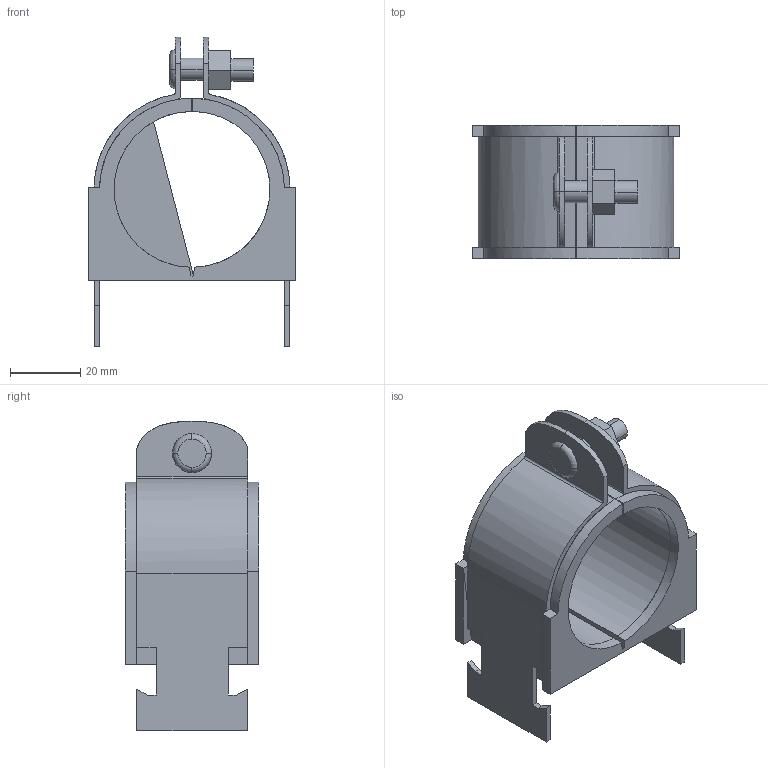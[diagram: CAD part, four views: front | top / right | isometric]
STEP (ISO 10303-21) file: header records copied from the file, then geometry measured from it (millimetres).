
FILE_DESCRIPTION(('TurboCAD Mac Pro'),'Build 980');
FILE_NAME('028N032.stp',' ',(''),(''),'ACIS Interop','IMSI','TurboCAD Mac Pro BY IMSI, INCORPORATED');
FILE_SCHEMA(('automotive_design'));
Length unit declared in the file: inch
Products named in the file (3): 1; 2; 3
Bounding box: 59.06 x 38.1 x 88.39 mm (x, y, z)
Volume: 45478.1 mm3; surface area: 28675.8 mm2
Topology: 3 solids, 3 shells, 143 faces, 375 edges, 242 vertices
Faces by surface type: plane 97, bspline 46
Entity records: 6871 total; most frequent: CARTESIAN_POINT 1741, ORIENTED_EDGE 750, DIRECTION 467, EDGE_CURVE 375, STYLED_ITEM 298, PRESENTATION_STYLE_ASSIGNMENT 298, COLOUR_RGB 298, LINE 259
